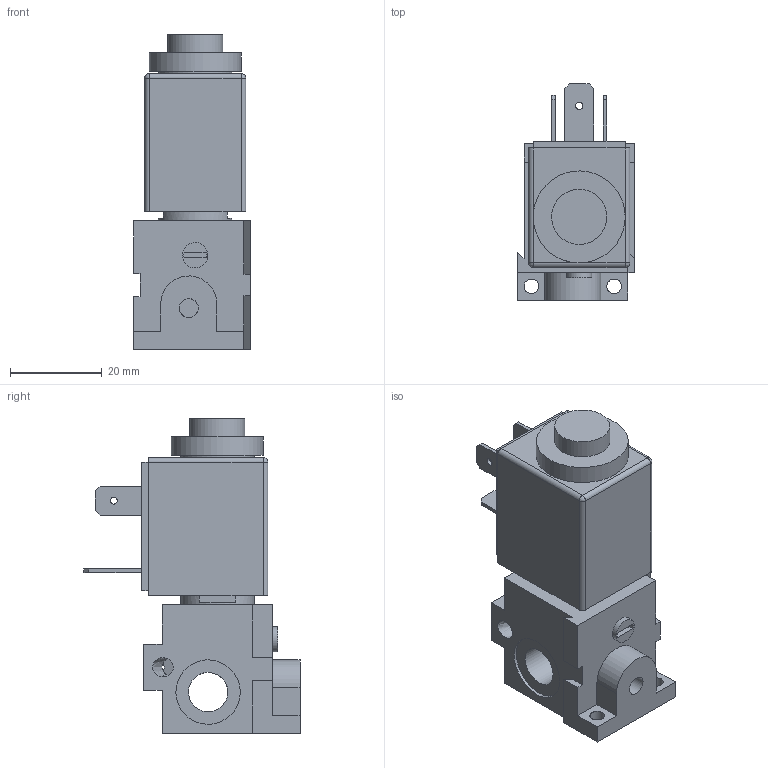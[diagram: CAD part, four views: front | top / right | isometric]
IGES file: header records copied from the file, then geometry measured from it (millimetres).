
Global section: file name: 355_M##; native system: Autodesk Inventor 2014; preprocessor: unknown; author: A. Manieri; date: 20161004.154150; units: millimetre
Bounding box: 25.4 x 47 x 68.5 mm (x, y, z)
Volume: 34595 mm3; surface area: 13243.8 mm2
Topology: 2 solids, 2 shells, 125 faces, 337 edges, 231 vertices
Faces by surface type: bspline 125
